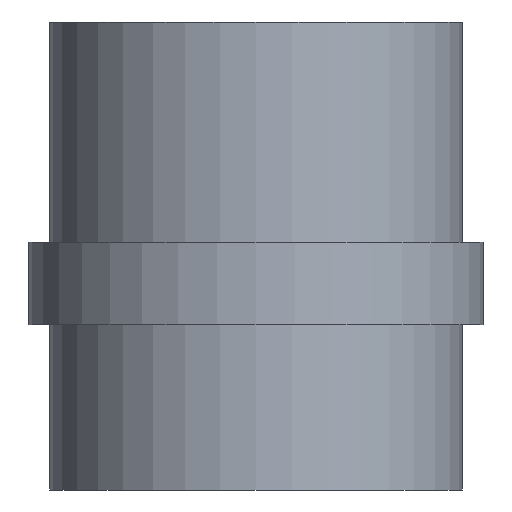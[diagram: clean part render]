
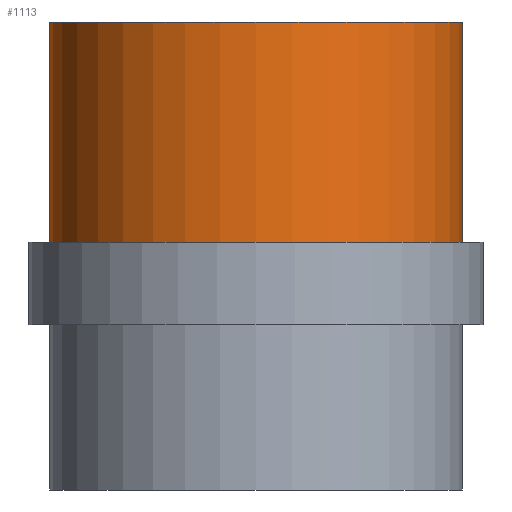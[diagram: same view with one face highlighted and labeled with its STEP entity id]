
A CAD part, front view. The second image highlights one B-rep face of the part: STEP entity #1113.
In plain terms, the highlighted cylindrical face has radius 15 mm (diameter 30 mm), a partial arc.
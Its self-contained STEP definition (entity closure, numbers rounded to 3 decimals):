
#313=CARTESIAN_POINT('',(0.,0.,6.));
#314=DIRECTION('',(0.,0.,-1.));
#315=DIRECTION('',(1.,0.,0.));
#316=AXIS2_PLACEMENT_3D('',#313,#314,#315);
#323=DIRECTION('',(0.,0.,-1.));
#324=VECTOR('',#323,16.);
#325=CARTESIAN_POINT('',(15.,0.,22.));
#326=LINE('',#325,#324);
#327=DIRECTION('',(0.,0.,-1.));
#328=VECTOR('',#327,16.);
#329=CARTESIAN_POINT('',(-15.,0.,22.));
#330=LINE('',#329,#328);
#331=CARTESIAN_POINT('',(0.,0.,22.));
#332=DIRECTION('',(0.,0.,-1.));
#333=DIRECTION('',(1.,0.,0.));
#334=AXIS2_PLACEMENT_3D('',#331,#332,#333);
#887=CARTESIAN_POINT('',(15.,0.,22.));
#888=CARTESIAN_POINT('',(15.,0.,6.));
#889=VERTEX_POINT('',#887);
#890=VERTEX_POINT('',#888);
#895=CARTESIAN_POINT('',(-15.,0.,22.));
#896=CARTESIAN_POINT('',(-15.,0.,6.));
#897=VERTEX_POINT('',#895);
#898=VERTEX_POINT('',#896);
#1099=CARTESIAN_POINT('',(0.,0.,-13.7));
#1100=DIRECTION('',(0.,0.,1.));
#1101=DIRECTION('',(-1.,0.,0.));
#1102=AXIS2_PLACEMENT_3D('',#1099,#1100,#1101);
#1103=CYLINDRICAL_SURFACE('',#1102,15.);
#1105=ORIENTED_EDGE('',*,*,#1104,.T.);
#1106=ORIENTED_EDGE('',*,*,#1092,.T.);
#1108=ORIENTED_EDGE('',*,*,#1107,.F.);
#1110=ORIENTED_EDGE('',*,*,#1109,.F.);
#1111=EDGE_LOOP('',(#1105,#1106,#1108,#1110));
#1112=FACE_OUTER_BOUND('',#1111,.F.);
#1113=ADVANCED_FACE('',(#1112),#1103,.T.);
#317=CIRCLE('',#316,15.);
#335=CIRCLE('',#334,15.);
#1092=EDGE_CURVE('',#890,#898,#317,.T.);
#1104=EDGE_CURVE('',#889,#890,#326,.T.);
#1107=EDGE_CURVE('',#897,#898,#330,.T.);
#1109=EDGE_CURVE('',#889,#897,#335,.T.);
